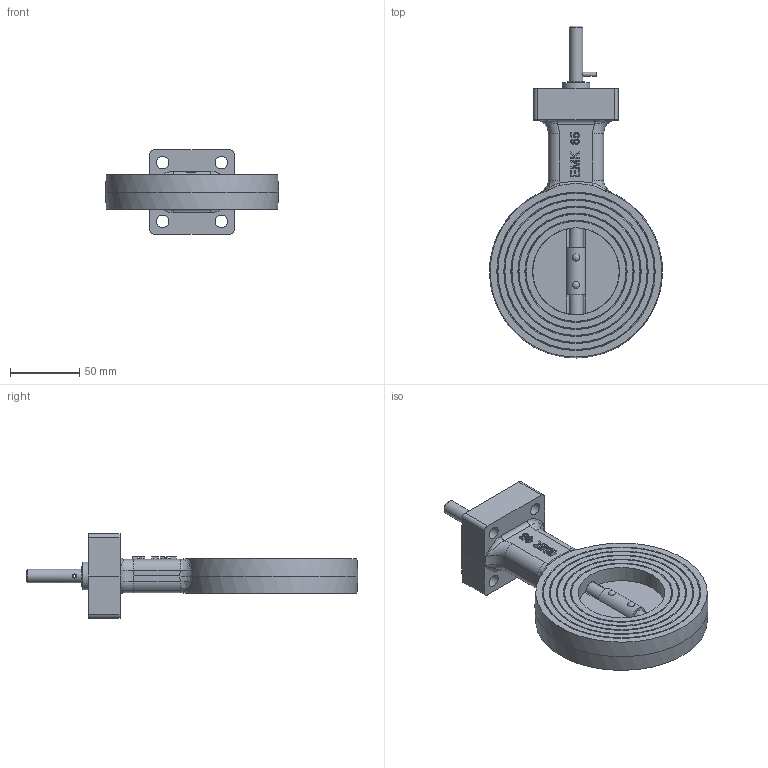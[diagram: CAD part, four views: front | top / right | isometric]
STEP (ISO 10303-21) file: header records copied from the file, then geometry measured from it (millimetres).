
FILE_DESCRIPTION((''),'2;1');
FILE_NAME('G:\CAD-Download\MRK\MRK Ro We\DN 65\MRK Ro We 25N-4.00.32.stp','2010-08-19T11:30:38',('da'),(''),'Autodesk Inventor 2008','Autodesk Inventor 2008','');
FILE_SCHEMA(('AUTOMOTIVE_DESIGN { 1 0 10303 214 1 1 1 1 }'));
Length unit declared in the file: millimetre
Products named in the file (1): Bauteil4
Bounding box: 125.19 x 240.15 x 61 mm (x, y, z)
Volume: 364324.5 mm3; surface area: 70140.9 mm2
Topology: 1 solids, 1 shells, 347 faces, 887 edges, 566 vertices
Faces by surface type: plane 182, bspline 73, cylinder 56, cone 28, sphere 4, torus 4
Full cylindrical faces by diameter (mm): 2 x2, 3 x3, 8 x2, 10 x2, 20 x1, 29.9 x1, 31.4 x1, 62.5 x1, 63 x1
Entity records: 12797 total; most frequent: CARTESIAN_POINT 4975, ORIENTED_EDGE 1594, DIRECTION 1417, EDGE_CURVE 797, VERTEX_POINT 537, AXIS2_PLACEMENT_3D 481, EDGE_LOOP 462, VECTOR 455
